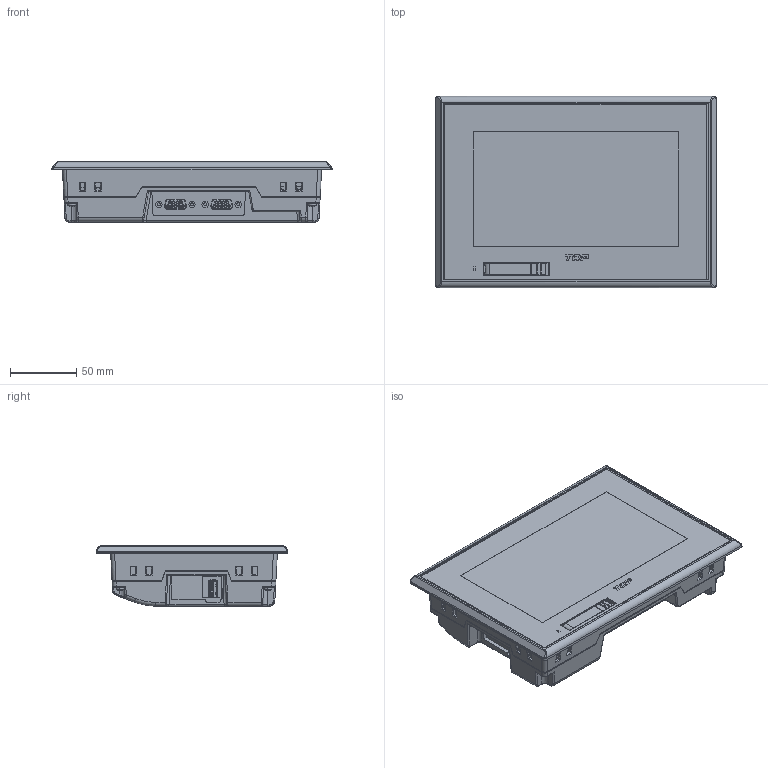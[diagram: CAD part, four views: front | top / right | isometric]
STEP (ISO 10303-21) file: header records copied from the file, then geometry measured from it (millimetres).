
FILE_DESCRIPTION((''),'2;1');
FILE_NAME('3D-TOPRW0700WD','2023-06-08T16:49:24',('BCKIM'),(''),'CREO PARAMETRIC BY PTC INC, 2022414','CREO PARAMETRIC BY PTC INC, 2022414','');
FILE_SCHEMA(('CONFIG_CONTROL_DESIGN'));
Products named in the file (1): 3D-TOPRW0700WD
Bounding box: 212 x 145 x 45.66 mm (x, y, z)
Volume: 1033607.9 mm3; surface area: 111271.7 mm2
Topology: 1 solids, 8 shells, 2450 faces, 7015 edges, 4696 vertices
Faces by surface type: plane 1706, cylinder 410, torus 111, cone 107, extrusion 74, bspline 30, sphere 12
Entity records: 84774 total; most frequent: CARTESIAN_POINT 21643, ORIENTED_EDGE 14014, DIRECTION 11690, EDGE_CURVE 7007, VECTOR 5044, LINE 4970, VERTEX_POINT 4696, AXIS2_PLACEMENT_3D 3323
